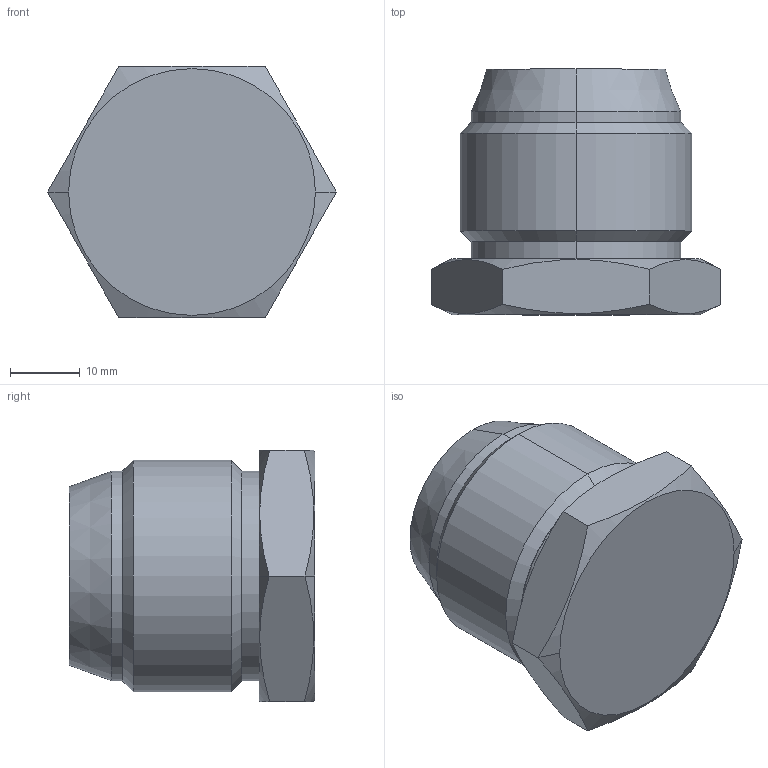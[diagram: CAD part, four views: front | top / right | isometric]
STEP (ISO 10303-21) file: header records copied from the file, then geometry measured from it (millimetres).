
FILE_DESCRIPTION((''),'2;1');
FILE_NAME('LSP_NIPPEL','2010-09-14T',('on'),(''),'PRO/ENGINEER BY PARAMETRIC TECHNOLOGY CORPORATION, 2005110','PRO/ENGINEER BY PARAMETRIC TECHNOLOGY CORPORATION, 2005110','');
FILE_SCHEMA(('CONFIG_CONTROL_DESIGN'));
Length unit declared in the file: millimetre
Products named in the file (1): LSP_NIPPEL
Bounding box: 41.36 x 35.2 x 36 mm (x, y, z)
Volume: 29967.4 mm3; surface area: 5788.4 mm2
Topology: 1 solids, 1 shells, 27 faces, 56 edges, 34 vertices
Faces by surface type: plane 11, cone 10, cylinder 6
Entity records: 846 total; most frequent: CARTESIAN_POINT 237, DIRECTION 120, ORIENTED_EDGE 112, EDGE_CURVE 56, AXIS2_PLACEMENT_3D 49, VERTEX_POINT 34, EDGE_LOOP 30, FACE_OUTER_BOUND 27
